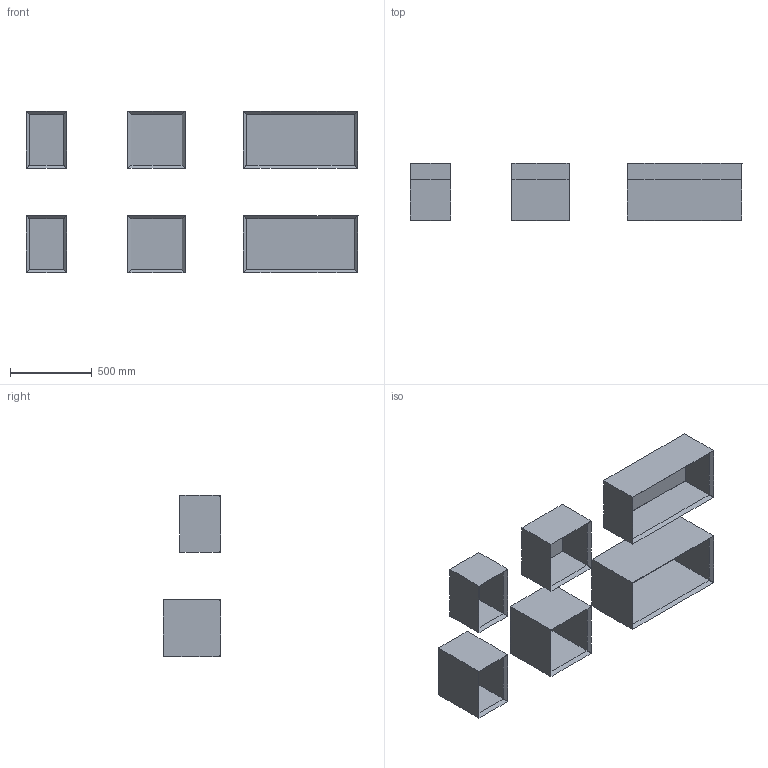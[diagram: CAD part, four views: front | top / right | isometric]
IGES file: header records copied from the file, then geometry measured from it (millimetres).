
Global section: file name: \\Archi-NAS\Comune\X GIOVANNI\MOBILI\EVOLINE\EVOLINE_TOTEM OPEN h 350.igs; native system: Rhinoceros ( Feb 23 2021 ); preprocessor: Trout Lake IGES 012 Feb 23 2021; date: 230607.151154; units: millimetre
Bounding box: 2025.35 x 350 x 988.08 mm (x, y, z)
Surface area: 7500773.9 mm2 (no closed solid volume)
Topology: 0 solids, 0 shells, 174 faces, 3204 edges, 3204 vertices
Faces by surface type: bspline 174
